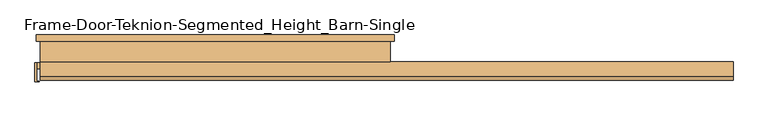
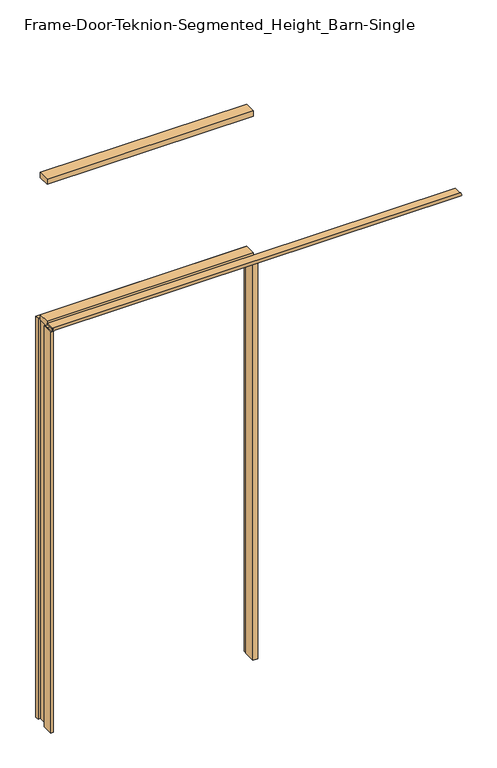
"""IFC4 building model written with IfcOpenShell, lengths in millimetres: door geometry, Frame-Door-Teknion-Segmented_Height_Barn-Single : FPBGFJ."""

from ifc_helpers import new_model, si_unit, point, frame, frame_2d, origin, origin_with_axes, place, context, project, spatial, polyline, circle_curve, ellipse_curve, trimmed, segment, composite_curve, outline, extrude, source, transform, mapped, element, save
from ifc_brep_helpers import plane_surface, cylinder_surface, advanced_brep


def frame_door_teknion_segmented_height_barn_single_50550370(model_context):
    return source(origin(), model_context, "Body", "SolidModel", [
        extrude(outline(polyline([(-534.933396, -32.3583761), (-530.2018277, -32.3583761), (-530.2018277, -86.5235242), (-521.4755703, -86.5235242), (-521.4755703, -88.3672512), (-534.933396, -88.3672512), (-534.933396, -32.3583761)])), origin_with_axes(), (0.0, 0.0, 1.0), 2133.3939997),
        advanced_brep(
        [(-522.4749516, 50.0254003, 0.0), (-504.6573558, 10.8510533, 0.0), (-504.6573558, -50.0254003, 0.0), (-530.2097562, -50.0254003, 0.0), (-530.2097562, -31.6863997, 0.0), (-518.4749562, -31.6863997, 0.0), (-518.4749562, 30.7214003, 0.0), (-530.2351562, 30.7214003, 0.0), (-530.2351562, 50.0254003, 0.0), (-522.4749516, 50.0254003, 2125.659195), (-504.6573558, 10.8510533, 2107.8415993), (-504.6573558, -50.0254003, 2107.8415993), (504.6573558, -50.0254003, 2107.8415993), (504.6573558, -50.0254003, 0.0), (530.2097562, -50.0254003, 0.0), (530.2097562, -50.0254003, 2133.3939997), (-530.2097562, -50.0254003, 2133.3939997), (-530.2097562, -31.6863997, 2133.3939997), (530.2097562, -31.6863997, 2133.3939997), (530.2097562, -31.6863997, 0.0), (518.4749562, -31.6863997, 0.0), (518.4749562, -31.6863997, 2121.6591997), (-518.4749562, -31.6863997, 2121.6591997), (-518.4749562, 30.7214003, 2121.6591997), (518.4749562, 30.7214003, 2121.6591997), (518.4749562, 30.7214003, 0.0), (530.2351562, 30.7214003, 0.0), (530.2351562, 30.7214003, 2133.4193997), (-530.2351562, 30.7214003, 2133.4193997), (-530.2351562, 50.0254003, 2133.4193997), (530.2351562, 50.0254003, 2133.4193997), (530.2351562, 50.0254003, 0.0), (522.4749516, 50.0254003, 0.0), (522.4749516, 50.0254003, 2125.659195), (504.6573558, 10.8510533, 2107.8415993), (504.6573558, 10.8510533, 0.0)],
        [
            (0, 1, circle_curve(frame((-556.6311521, 10.8510533, 0.0), z_axis=(0.0, 0.0, -1.0), x_axis=(-1.0, 0.0, 0.0)), 51.9737963)),
            (1, 2),
            (2, 3),
            (3, 4),
            (4, 5),
            (5, 6),
            (6, 7),
            (7, 8),
            (8, 0),
            (0, 9),
            (9, 10, ellipse_curve(frame((-556.6311521, 10.8510533, 2159.8153955), z_axis=(-0.7071067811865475, 0.0, -0.7071067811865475), x_axis=(0.7071067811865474, 0.0, -0.7071067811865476)), 73.5020475, 51.9737963)),
            (10, 1),
            (10, 11),
            (11, 2),
            (11, 12),
            (12, 13),
            (13, 14),
            (14, 15),
            (15, 16),
            (16, 3),
            (16, 17),
            (17, 4),
            (17, 18),
            (18, 19),
            (19, 20),
            (20, 21),
            (21, 22),
            (22, 5),
            (22, 23),
            (23, 6),
            (23, 24),
            (24, 25),
            (25, 26),
            (26, 27),
            (27, 28),
            (28, 7),
            (28, 29),
            (29, 8),
            (29, 30),
            (30, 31),
            (31, 32),
            (32, 33),
            (33, 9),
            (12, 34),
            (34, 35),
            (35, 13),
            (34, 33, ellipse_curve(frame((556.6311521, 10.8510533, 2159.8153955), z_axis=(0.7071067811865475, 0.0, -0.7071067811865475), x_axis=(0.7071067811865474, 0.0, 0.7071067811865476)), 73.5020475, 51.9737963)),
            (32, 35, circle_curve(frame((556.6311521, 10.8510533, 0.0), z_axis=(0.0, 0.0, 1.0), x_axis=(1.0, 0.0, 0.0)), 51.9737963)),
            (31, 26),
            (25, 20),
            (19, 14),
            (18, 15),
            (24, 21),
            (30, 27),
            (10, 34),
        ],
        [
            plane_surface(frame((-519.4101562, 0.0, 0.0), z_axis=(0.0, 0.0, -1.0), x_axis=(0.0, -1.0, 0.0))),
            cylinder_surface(frame((-556.6311521, 10.8510533, 0.0), z_axis=(0.0, 0.0, -1.0), x_axis=(-1.0, 0.0, 0.0)), 51.9737963),
            plane_surface(frame((-504.6573558, 10.8510533, 0.0), z_axis=(1.0, 0.0, 0.0), x_axis=(0.0, 0.0, 1.0))),
            plane_surface(frame((-504.6573558, -50.0254003, 0.0), z_axis=(0.0, -1.0, 0.0), x_axis=(0.0, 0.0, 1.0))),
            plane_surface(frame((-530.2097562, -50.0254003, 0.0), z_axis=(-1.0, 0.0, 0.0), x_axis=(0.0, 0.0, 1.0))),
            plane_surface(frame((-530.2097562, -31.6863997, 0.0), z_axis=(0.0, 1.0, 0.0), x_axis=(0.0, 0.0, 1.0))),
            plane_surface(frame((-518.4749562, -31.6863997, 0.0), z_axis=(-1.0, 0.0, 0.0), x_axis=(0.0, 0.0, 1.0))),
            plane_surface(frame((-518.4749562, 30.7214003, 0.0), z_axis=(0.0, -1.0, 0.0), x_axis=(0.0, 0.0, 1.0))),
            plane_surface(frame((-530.2351562, 30.7214003, 0.0), z_axis=(-1.0, 0.0, 0.0), x_axis=(0.0, 0.0, 1.0))),
            plane_surface(frame((-530.2351562, 50.0254003, 0.0), z_axis=(0.0, 1.0, 0.0), x_axis=(0.0, 0.0, 1.0))),
            plane_surface(frame((504.6573558, 10.8510533, 2107.8415993), z_axis=(-1.0, 0.0, 0.0), x_axis=(0.0, 0.0, -1.0))),
            cylinder_surface(frame((556.6311521, 10.8510533, 2122.5943997), z_axis=(0.0, 0.0, 1.0), x_axis=(1.0, 0.0, 0.0)), 51.9737963),
            plane_surface(frame((519.4101563, 0.0, 0.0), z_axis=(0.0, 0.0, -1.0), x_axis=(0.0, -1.0, 0.0))),
            plane_surface(frame((530.2097562, -50.0254003, 2133.3939997), z_axis=(1.0, 0.0, 0.0), x_axis=(0.0, 0.0, -1.0))),
            plane_surface(frame((518.4749562, -31.6863997, 2121.6591997), z_axis=(1.0, 0.0, 0.0), x_axis=(0.0, 0.0, -1.0))),
            plane_surface(frame((530.2351562, 30.7214003, 2133.4193997), z_axis=(1.0, 0.0, 0.0), x_axis=(0.0, 0.0, -1.0))),
            plane_surface(frame((-504.6573558, 10.8510533, 2107.8415993), z_axis=(0.0, 0.0, -1.0), x_axis=(1.0, 0.0, 0.0))),
            plane_surface(frame((-530.2097562, -50.0254003, 2133.3939997), z_axis=(0.0, 0.0, 1.0), x_axis=(1.0, 0.0, 0.0))),
            plane_surface(frame((-518.4749562, -31.6863997, 2121.6591997), z_axis=(0.0, 0.0, 1.0), x_axis=(1.0, 0.0, 0.0))),
            plane_surface(frame((-530.2351562, 30.7214003, 2133.4193997), z_axis=(0.0, 0.0, 1.0), x_axis=(1.0, 0.0, 0.0))),
            cylinder_surface(frame((-519.4101562, 10.8510533, 2159.8153955), z_axis=(-1.0, 0.0, 0.0), x_axis=(0.0, 0.0, 1.0)), 51.9737963),
        ],
        [
            (0, [[1, 2, 3, 4, 5, 6, 7, 8, 9]]),
            (1, [[-1, 10, 11, 12]]),
            (2, [[-2, -12, 13, 14]]),
            (3, [[-3, -14, 15, 16, 17, 18, 19, 20]]),
            (4, [[-4, -20, 21, 22]]),
            (5, [[-5, -22, 23, 24, 25, 26, 27, 28]]),
            (6, [[-6, -28, 29, 30]]),
            (7, [[-7, -30, 31, 32, 33, 34, 35, 36]]),
            (8, [[-8, -36, 37, 38]]),
            (9, [[-9, -38, 39, 40, 41, 42, 43, -10]]),
            (10, [[44, 45, 46, -16]]),
            (11, [[47, -42, 48, -45]]),
            (12, [[-41, 49, -33, 50, -25, 51, -17, -46, -48]]),
            (13, [[52, -18, -51, -24]]),
            (14, [[53, -26, -50, -32]]),
            (15, [[54, -34, -49, -40]]),
            (16, [[-13, 55, -44, -15]]),
            (17, [[-21, -19, -52, -23]]),
            (18, [[-29, -27, -53, -31]]),
            (19, [[-37, -35, -54, -39]]),
            (20, [[-11, -43, -47, -55]]),
        ],
    ),
        extrude(outline(polyline([(519.4101563, 29.2227), (519.4101563, -29.2227), (-519.4101562, -29.2227), (-519.4101562, 29.2227), (519.4101563, 29.2227)])), frame((0.0, 0.0, 2879.6996), z_axis=(0.0, 0.0, 1.0), x_axis=(1.0, 0.0, 0.0)), (0.0, 0.0, 1.0), 27.9908),
        extrude(outline(composite_curve([segment(polyline([(-72.4186962, 2139.315), (-29.2073222, 2139.315), (-29.2073222, 2134.235), (-72.4186962, 2134.235)]), True, "CONTINUOUS"), segment(trimmed(circle_curve(frame_2d((-78.2385673, 2136.775)), 6.35), [point((-72.4186962, 2134.235))], [point((-72.4186962, 2139.315))], False, "CARTESIAN"), True, "CONTINUOUS")], self_intersect=False)), frame((-519.4101562, 0.0, 0.0), z_axis=(1.0, 0.0, 0.0), x_axis=(0.0, 1.0, 0.0)), (0.0, 0.0, 1.0), 2054.8203125),
        extrude(outline(polyline([(-519.4101562, -29.2199219), (-519.4101562, 29.2199219), (519.4101563, 29.2199219), (519.4101563, -29.2199219), (-519.4101562, -29.2199219)])), frame((0.0, 0.0, 2122.7851563), z_axis=(0.0, 0.0, 1.0), x_axis=(1.0, 0.0, 0.0)), (0.0, 0.0, 1.0), 27.9796875),
    ])


if __name__ == "__main__":
    model = new_model("IFC4")
    model_context = context("Model", 3, world=origin())
    ifc_project = project(units=[si_unit("LENGTHUNIT", "METRE", prefix="MILLI")], contexts=[model_context])
    site = spatial("IfcSite", under=ifc_project)
    building = spatial("IfcBuilding", under=site)
    placement = place(None, origin())
    frame_door_teknion_segmented_height_barn_single_shape = frame_door_teknion_segmented_height_barn_single_50550370(model_context)
    element("IfcDoor", 1, ObjectType="Frame-Door-Teknion-Segmented_Height_Barn-Single : FPBGFJ", at=placement, inside=building, context=model_context, shape_type="MappedRepresentation", body=[
        mapped(frame_door_teknion_segmented_height_barn_single_shape, transform((0.0, 0.0, 0.0), x_axis=(1.0, 0.0, 0.0), y_axis=(0.0, 1.0, 0.0), z_axis=(0.0, 0.0, 1.0))),
    ])
    save(model, "model.ifc")
